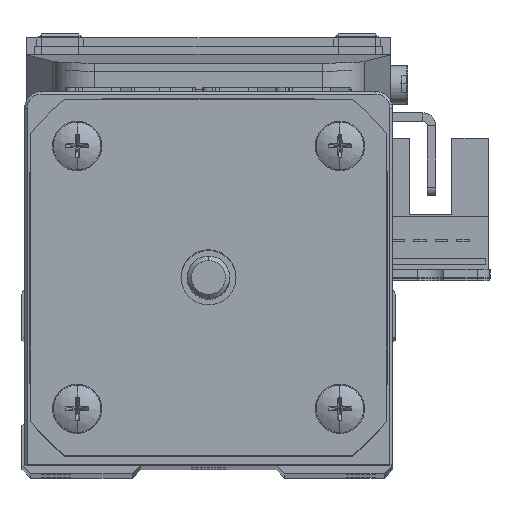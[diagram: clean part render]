
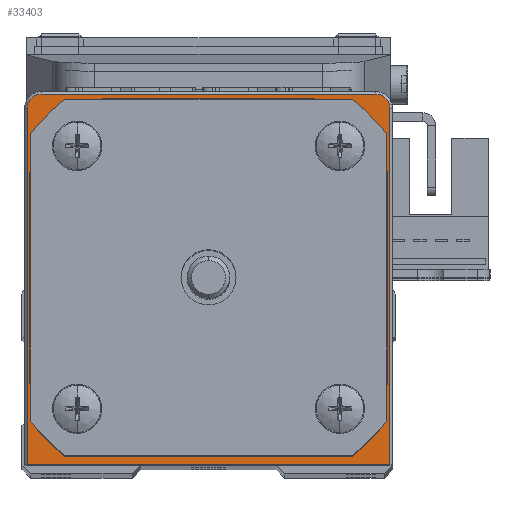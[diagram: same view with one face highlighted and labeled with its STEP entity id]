
A CAD part, top view. The second image highlights one B-rep face of the part: STEP entity #33403.
In plain terms, the highlighted planar face has unit normal (0, 0, 1).
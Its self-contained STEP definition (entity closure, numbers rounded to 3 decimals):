
#8 = ORIENTED_EDGE ( 'NONE', *, *, #66325, .F. ) ;
#577 = DIRECTION ( 'NONE',  ( 1., 0., 0. ) ) ;
#1276 = DIRECTION ( 'NONE',  ( 0., 0., 1. ) ) ;
#3350 = CIRCLE ( 'NONE', #45920, 10. ) ;
#3807 = EDGE_CURVE ( 'NONE', #54457, #35304, #58910, .T. ) ;
#5581 = AXIS2_PLACEMENT_3D ( 'NONE', #8179, #31433, #54679 ) ;
#6746 = LINE ( 'NONE', #29981, #57788 ) ;
#7795 = ORIENTED_EDGE ( 'NONE', *, *, #12727, .T. ) ;
#8179 = CARTESIAN_POINT ( 'NONE',  ( 0., 0., 26.5 ) ) ;
#9547 = DIRECTION ( 'NONE',  ( 1., 0., 0. ) ) ;
#10615 = VERTEX_POINT ( 'NONE', #24560 ) ;
#10736 = CARTESIAN_POINT ( 'NONE',  ( -10., 0., 26.5 ) ) ;
#10957 = DIRECTION ( 'NONE',  ( 0., -1., 0. ) ) ;
#12727 = EDGE_CURVE ( 'NONE', #39301, #10615, #6746, .T. ) ;
#13146 = DIRECTION ( 'NONE',  ( 1., 0., 0. ) ) ;
#13223 = CARTESIAN_POINT ( 'NONE',  ( 19.7, 21.7, 26.5 ) ) ;
#15259 = PLANE ( 'NONE',  #75096 ) ;
#16235 = CARTESIAN_POINT ( 'NONE',  ( 10., 0., 26.5 ) ) ;
#20560 = LINE ( 'NONE', #43808, #25073 ) ;
#21295 = CARTESIAN_POINT ( 'NONE',  ( -21.4, -22., 26.5 ) ) ;
#23704 = VERTEX_POINT ( 'NONE', #42461 ) ;
#24488 = DIRECTION ( 'NONE',  ( 1., 0., 0. ) ) ;
#24560 = CARTESIAN_POINT ( 'NONE',  ( 21.4, -22., 26.5 ) ) ;
#25073 = VECTOR ( 'NONE', #67030, 1000. ) ;
#26037 = AXIS2_PLACEMENT_3D ( 'NONE', #53473, #1276, #24488 ) ;
#27058 = LINE ( 'NONE', #50302, #35741 ) ;
#29516 = CARTESIAN_POINT ( 'NONE',  ( 0., 0., 26.5 ) ) ;
#29897 = ORIENTED_EDGE ( 'NONE', *, *, #43301, .T. ) ;
#29981 = CARTESIAN_POINT ( 'NONE',  ( -21.7, -22., 26.5 ) ) ;
#31433 = DIRECTION ( 'NONE',  ( 0., 0., 1. ) ) ;
#33324 = ORIENTED_EDGE ( 'NONE', *, *, #36997, .F. ) ;
#33403 = ADVANCED_FACE ( 'NONE', ( #44217, #67441 ), #15259, .T. ) ;
#35294 = ORIENTED_EDGE ( 'NONE', *, *, #47859, .T. ) ;
#35304 = VERTEX_POINT ( 'NONE', #13223 ) ;
#35657 = ORIENTED_EDGE ( 'NONE', *, *, #38307, .T. ) ;
#35741 = VECTOR ( 'NONE', #73548, 1000. ) ;
#36997 = EDGE_CURVE ( 'NONE', #69587, #74626, #3350, .T. ) ;
#38307 = EDGE_CURVE ( 'NONE', #61926, #23704, #75338, .T. ) ;
#38454 = CIRCLE ( 'NONE', #5581, 10. ) ;
#38501 = CARTESIAN_POINT ( 'NONE',  ( 0., 0., 26.5 ) ) ;
#39301 = VERTEX_POINT ( 'NONE', #21295 ) ;
#39908 = LINE ( 'NONE', #63148, #52889 ) ;
#41280 = ORIENTED_EDGE ( 'NONE', *, *, #3807, .T. ) ;
#42091 = CARTESIAN_POINT ( 'NONE',  ( -19.7, 20., 26.5 ) ) ;
#42461 = CARTESIAN_POINT ( 'NONE',  ( -21.4, 20., 26.5 ) ) ;
#42708 = EDGE_CURVE ( 'NONE', #10615, #54457, #27058, .T. ) ;
#43301 = EDGE_CURVE ( 'NONE', #23704, #39301, #39908, .T. ) ;
#43808 = CARTESIAN_POINT ( 'NONE',  ( -19.7, 21.7, 26.5 ) ) ;
#44217 = FACE_OUTER_BOUND ( 'NONE', #67923, .T. ) ;
#45920 = AXIS2_PLACEMENT_3D ( 'NONE', #29516, #52764, #577 ) ;
#46757 = CARTESIAN_POINT ( 'NONE',  ( 21.4, 20., 26.5 ) ) ;
#47859 = EDGE_CURVE ( 'NONE', #35304, #61926, #20560, .T. ) ;
#50302 = CARTESIAN_POINT ( 'NONE',  ( 21.4, 20., 26.5 ) ) ;
#52243 = AXIS2_PLACEMENT_3D ( 'NONE', #42091, #65327, #13146 ) ;
#52764 = DIRECTION ( 'NONE',  ( 0., 0., 1. ) ) ;
#52889 = VECTOR ( 'NONE', #10957, 1000. ) ;
#53243 = DIRECTION ( 'NONE',  ( 1., 0., 0. ) ) ;
#53316 = CARTESIAN_POINT ( 'NONE',  ( -19.7, 21.7, 26.5 ) ) ;
#53473 = CARTESIAN_POINT ( 'NONE',  ( 19.7, 20., 26.5 ) ) ;
#54457 = VERTEX_POINT ( 'NONE', #46757 ) ;
#54679 = DIRECTION ( 'NONE',  ( 1., 0., 0. ) ) ;
#57788 = VECTOR ( 'NONE', #53243, 1000. ) ;
#58910 = CIRCLE ( 'NONE', #26037, 1.7 ) ;
#61754 = DIRECTION ( 'NONE',  ( 0., 0., 1. ) ) ;
#61926 = VERTEX_POINT ( 'NONE', #53316 ) ;
#63148 = CARTESIAN_POINT ( 'NONE',  ( -21.4, -22., 26.5 ) ) ;
#63670 = ORIENTED_EDGE ( 'NONE', *, *, #42708, .T. ) ;
#65327 = DIRECTION ( 'NONE',  ( 0., 0., 1. ) ) ;
#66325 = EDGE_CURVE ( 'NONE', #74626, #69587, #38454, .T. ) ;
#67030 = DIRECTION ( 'NONE',  ( -1., 0., 0. ) ) ;
#67441 = FACE_BOUND ( 'NONE', #71411, .T. ) ;
#67923 = EDGE_LOOP ( 'NONE', ( #7795, #63670, #41280, #35294, #35657, #29897 ) ) ;
#69587 = VERTEX_POINT ( 'NONE', #10736 ) ;
#71411 = EDGE_LOOP ( 'NONE', ( #33324, #8 ) ) ;
#73548 = DIRECTION ( 'NONE',  ( 0., 1., 0. ) ) ;
#74626 = VERTEX_POINT ( 'NONE', #16235 ) ;
#75096 = AXIS2_PLACEMENT_3D ( 'NONE', #38501, #61754, #9547 ) ;
#75338 = CIRCLE ( 'NONE', #52243, 1.7 ) ;
